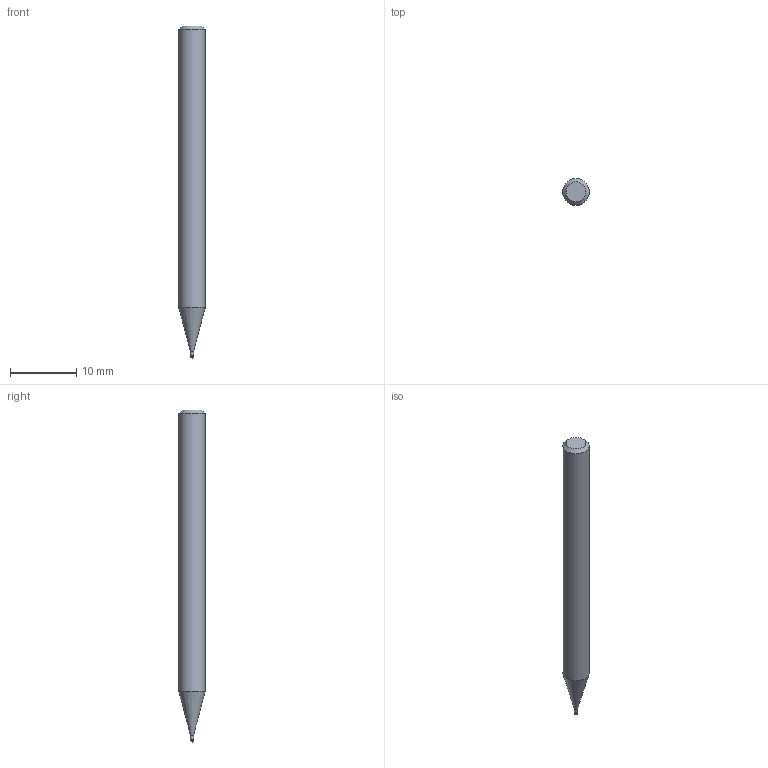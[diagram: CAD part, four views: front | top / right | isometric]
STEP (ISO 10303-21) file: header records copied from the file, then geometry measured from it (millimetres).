
FILE_DESCRIPTION((''),'2;1');
FILE_NAME('C:\Users\nsx150\AppData\Local\Temp\Mastercam 2021\LJSIDMOTM8\TEMP.step','2021-08-03T14:22:56',(''),(''),'STEP Write','Mastercam 2021 ... CNC Software, Inc.','');
FILE_SCHEMA(('AUTOMOTIVE_DESIGN'));
Length unit declared in the file: millimetre
Products named in the file (1): None
Bounding box: 4 x 4 x 50 mm (x, y, z)
Volume: 562.7 mm3; surface area: 591.1 mm2
Topology: 2 solids, 2 shells, 9 faces, 14 edges, 8 vertices
Faces by surface type: plane 3, cylinder 3, cone 2, sphere 1
Full cylindrical faces by diameter (mm): 0.46 x1, 0.5 x1, 4 x1
Entity records: 211 total; most frequent: DIRECTION 36, CARTESIAN_POINT 25, AXIS2_PLACEMENT_3D 18, ORIENTED_EDGE 14, EDGE_LOOP 14, STYLED_ITEM 12, ADVANCED_FACE 9, FACE_BOUND 8
